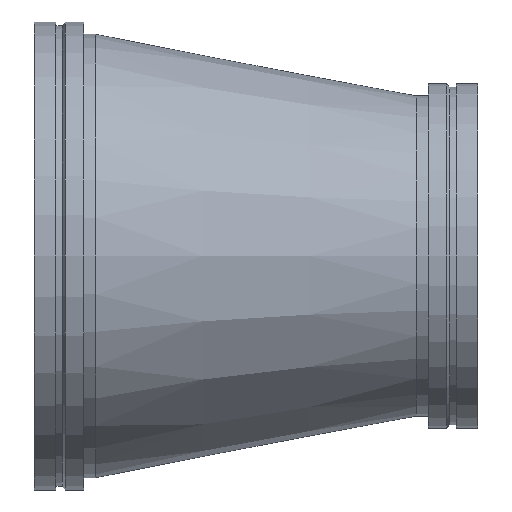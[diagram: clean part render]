
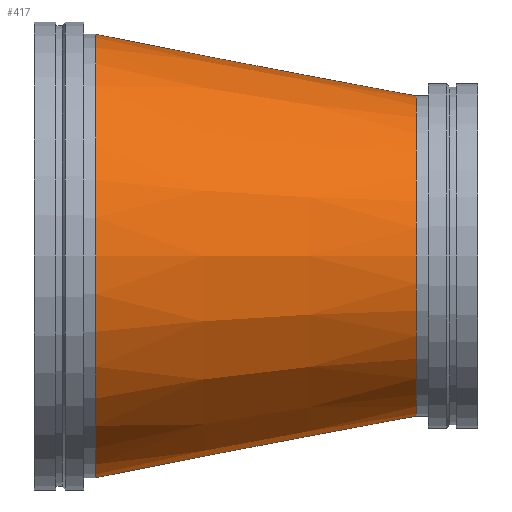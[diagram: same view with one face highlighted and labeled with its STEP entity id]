
A CAD part, front view. The second image highlights one B-rep face of the part: STEP entity #417.
In plain terms, the highlighted conical face has half-angle 10.886 degrees and reference radius 393.7 mm.
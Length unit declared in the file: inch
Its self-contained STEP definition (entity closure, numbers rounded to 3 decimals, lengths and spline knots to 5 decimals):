
#46=CONICAL_SURFACE('',#475,15.5,0.19);
#54=LINE('',#739,#68);
#68=VECTOR('',#587,15.5);
#101=FACE_OUTER_BOUND('',#124,.T.);
#124=EDGE_LOOP('',(#315,#316,#317,#318,#319,#320));
#155=CIRCLE('',#473,18.);
#156=CIRCLE('',#474,18.);
#157=CIRCLE('',#476,13.);
#158=CIRCLE('',#477,13.);
#195=VERTEX_POINT('',#729);
#196=VERTEX_POINT('',#730);
#197=VERTEX_POINT('',#735);
#198=VERTEX_POINT('',#736);
#239=EDGE_CURVE('',#195,#196,#155,.T.);
#240=EDGE_CURVE('',#196,#195,#156,.T.);
#242=EDGE_CURVE('',#197,#198,#157,.T.);
#243=EDGE_CURVE('',#198,#197,#158,.T.);
#244=EDGE_CURVE('',#198,#196,#54,.T.);
#315=ORIENTED_EDGE('',*,*,#242,.F.);
#316=ORIENTED_EDGE('',*,*,#243,.F.);
#317=ORIENTED_EDGE('',*,*,#244,.T.);
#318=ORIENTED_EDGE('',*,*,#240,.T.);
#319=ORIENTED_EDGE('',*,*,#239,.T.);
#320=ORIENTED_EDGE('',*,*,#244,.F.);
#417=ADVANCED_FACE('',(#101),#46,.T.);
#473=AXIS2_PLACEMENT_3D('',#731,#576,#577);
#474=AXIS2_PLACEMENT_3D('',#732,#578,#579);
#475=AXIS2_PLACEMENT_3D('',#734,#581,#582);
#476=AXIS2_PLACEMENT_3D('',#737,#583,#584);
#477=AXIS2_PLACEMENT_3D('',#738,#585,#586);
#576=DIRECTION('center_axis',(1.,0.,0.));
#577=DIRECTION('ref_axis',(0.,0.,-1.));
#578=DIRECTION('center_axis',(1.,0.,0.));
#579=DIRECTION('ref_axis',(0.,0.,-1.));
#581=DIRECTION('center_axis',(-1.,0.,0.));
#582=DIRECTION('ref_axis',(0.,1.,0.));
#583=DIRECTION('center_axis',(1.,0.,0.));
#584=DIRECTION('ref_axis',(0.,0.,-1.));
#585=DIRECTION('center_axis',(1.,0.,0.));
#586=DIRECTION('ref_axis',(0.,0.,-1.));
#587=DIRECTION('',(-0.982,-0.189,0.));
#729=CARTESIAN_POINT('',(5.,18.,0.));
#730=CARTESIAN_POINT('',(5.,-18.,0.));
#731=CARTESIAN_POINT('Origin',(5.,0.,0.));
#732=CARTESIAN_POINT('Origin',(5.,0.,0.));
#734=CARTESIAN_POINT('Origin',(18.,0.,0.));
#735=CARTESIAN_POINT('',(31.,13.,0.));
#736=CARTESIAN_POINT('',(31.,-13.,0.));
#737=CARTESIAN_POINT('Origin',(31.,0.,0.));
#738=CARTESIAN_POINT('Origin',(31.,0.,0.));
#739=CARTESIAN_POINT('',(18.,-15.5,0.));
